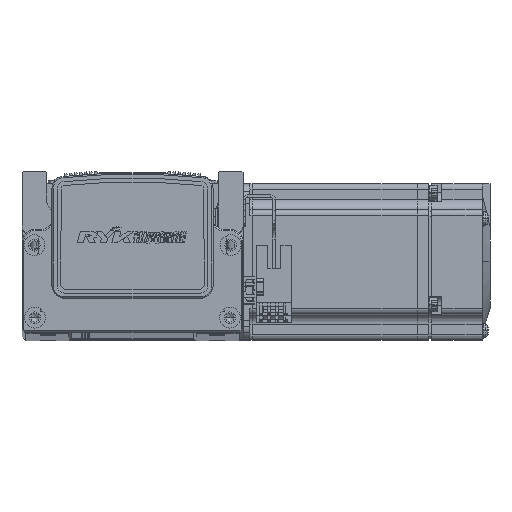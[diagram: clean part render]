
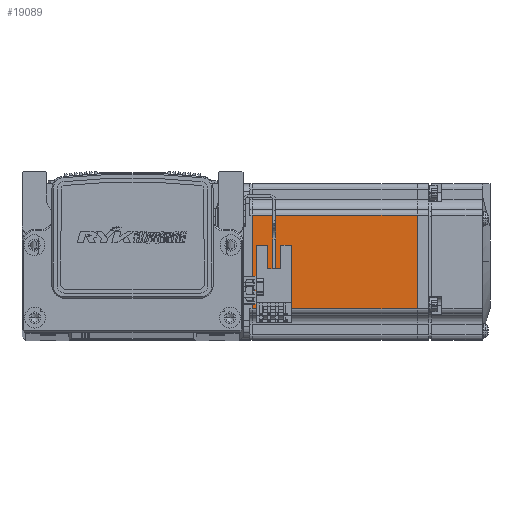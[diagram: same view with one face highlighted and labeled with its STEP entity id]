
A CAD part, top view. The second image highlights one B-rep face of the part: STEP entity #19089.
In plain terms, the highlighted planar face has unit normal (0, 0, 1) as drawn and (0, 0, -1) by its records, which use the part's own axes.
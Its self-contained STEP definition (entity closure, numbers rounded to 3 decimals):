
#12926 = EDGE_CURVE ( 'NONE', #64022, #64031, #70606, .T. ) ;
#12936 = EDGE_CURVE ( 'NONE', #64013, #63995, #70582, .T. ) ;
#12942 = EDGE_CURVE ( 'NONE', #64031, #64013, #69464, .T. ) ;
#12964 = EDGE_CURVE ( 'NONE', #63995, #64022, #69458, .T. ) ;
#15385 = DIRECTION ( 'NONE',  ( -1., 0., 0. ) ) ;
#15392 = DIRECTION ( 'NONE',  ( 0., 0., -1. ) ) ;
#15411 = PLANE ( 'NONE',  #23242 ) ;
#15412 = CARTESIAN_POINT ( 'NONE',  ( -6.5, 25., -30. ) ) ;
#19089 = ADVANCED_FACE ( 'NONE', ( #27814 ), #15411, .T. ) ;
#23242 = AXIS2_PLACEMENT_3D ( 'NONE', #15412, #15392, #15385 ) ;
#27814 = FACE_OUTER_BOUND ( 'NONE', #43565, .T. ) ;
#43565 = EDGE_LOOP ( 'NONE', ( #75325, #75362, #75381, #75437 ) ) ;
#52073 = CARTESIAN_POINT ( 'NONE',  ( -7.75, -18., -30. ) ) ;
#52099 = CARTESIAN_POINT ( 'NONE',  ( -70.95, -18., -30. ) ) ;
#52133 = CARTESIAN_POINT ( 'NONE',  ( -70.95, 18., -30. ) ) ;
#52156 = CARTESIAN_POINT ( 'NONE',  ( -7.75, 18., -30. ) ) ;
#63995 = VERTEX_POINT ( 'NONE', #52156 ) ;
#64013 = VERTEX_POINT ( 'NONE', #52133 ) ;
#64022 = VERTEX_POINT ( 'NONE', #52073 ) ;
#64031 = VERTEX_POINT ( 'NONE', #52099 ) ;
#66250 = CARTESIAN_POINT ( 'NONE',  ( -6.5, 18., -30. ) ) ;
#66273 = CARTESIAN_POINT ( 'NONE',  ( -6.5, -18., -30. ) ) ;
#66282 = DIRECTION ( 'NONE',  ( 1., 0., 0. ) ) ;
#66283 = DIRECTION ( 'NONE',  ( -1., 0., 0. ) ) ;
#66316 = CARTESIAN_POINT ( 'NONE',  ( -70.95, 25., -30. ) ) ;
#66322 = DIRECTION ( 'NONE',  ( 0., 1., 0. ) ) ;
#66336 = DIRECTION ( 'NONE',  ( 0., -1., 0. ) ) ;
#66348 = CARTESIAN_POINT ( 'NONE',  ( -7.75, 25., -30. ) ) ;
#69399 = VECTOR ( 'NONE', #66336, 1000. ) ;
#69411 = VECTOR ( 'NONE', #66322, 1000. ) ;
#69458 = LINE ( 'NONE', #66348, #69399 ) ;
#69464 = LINE ( 'NONE', #66316, #69411 ) ;
#70571 = VECTOR ( 'NONE', #66283, 1000. ) ;
#70575 = VECTOR ( 'NONE', #66282, 1000. ) ;
#70582 = LINE ( 'NONE', #66250, #70575 ) ;
#70606 = LINE ( 'NONE', #66273, #70571 ) ;
#75325 = ORIENTED_EDGE ( 'NONE', *, *, #12964, .T. ) ;
#75362 = ORIENTED_EDGE ( 'NONE', *, *, #12926, .T. ) ;
#75381 = ORIENTED_EDGE ( 'NONE', *, *, #12942, .T. ) ;
#75437 = ORIENTED_EDGE ( 'NONE', *, *, #12936, .T. ) ;
